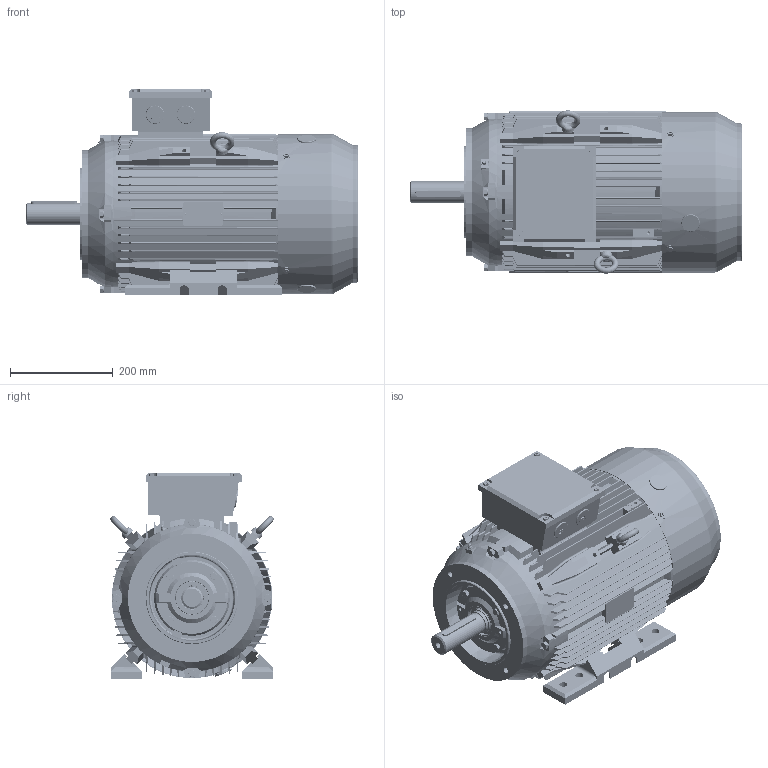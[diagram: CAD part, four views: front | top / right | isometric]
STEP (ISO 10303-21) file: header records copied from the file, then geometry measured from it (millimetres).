
FILE_DESCRIPTION (( 'STEP AP214' ), '1' );
FILE_NAME ('BCT4150.16H434.11.step', '2020-04-23T14:24:48', ( '' ), ( '' ), 'SwSTEP 2.0', 'SolidWorks 2019', '' );
FILE_SCHEMA (( 'AUTOMOTIVE_DESIGN' ));
Length unit declared in the file: millimetre
Products named in the file (1): BCT4150.16H434.11
Bounding box: 646.5 x 318.13 x 402.74 mm (x, y, z)
Volume: 9382471.3 mm3; surface area: 2923721.3 mm2
Topology: 53 solids, 54 shells, 6851 faces, 19613 edges, 12816 vertices
Faces by surface type: plane 3283, cylinder 2550, cone 437, torus 361, bspline 116, sphere 104
Entity records: 265921 total; most frequent: CARTESIAN_POINT 84829, ORIENTED_EDGE 38798, DIRECTION 36697, EDGE_CURVE 19399, AXIS2_PLACEMENT_3D 12871, VERTEX_POINT 12764, LINE 10955, VECTOR 10955
